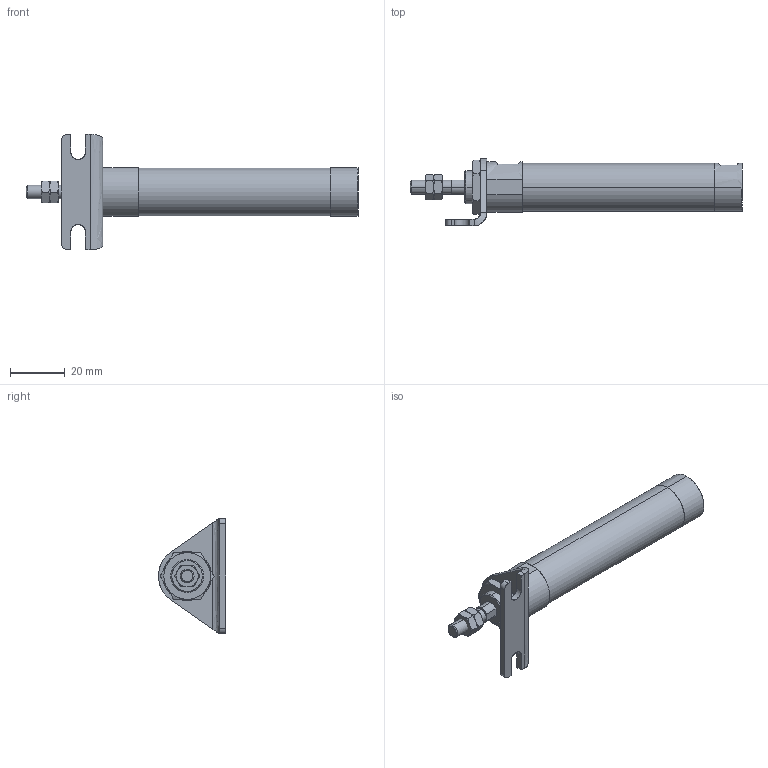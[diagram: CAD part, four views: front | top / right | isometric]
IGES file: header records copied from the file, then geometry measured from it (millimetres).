
Start section: SolidWorks IGES file using analytic representation for surfaces
Global section: file name: C:\Users\Toshiba\Desktop\ZGU2-16-45-L.IGS; native system: SolidWorks 2014; preprocessor: SolidWorks 2014; author: Toshiba; date: 160331.090008; units: millimetre
Bounding box: 121 x 24.5 x 42 mm (x, y, z)
Surface area: 9612.6 mm2 (no closed solid volume)
Topology: 0 solids, 0 shells, 134 faces, 2010 edges, 2006 vertices
Faces by surface type: bspline 94, revolution 40
